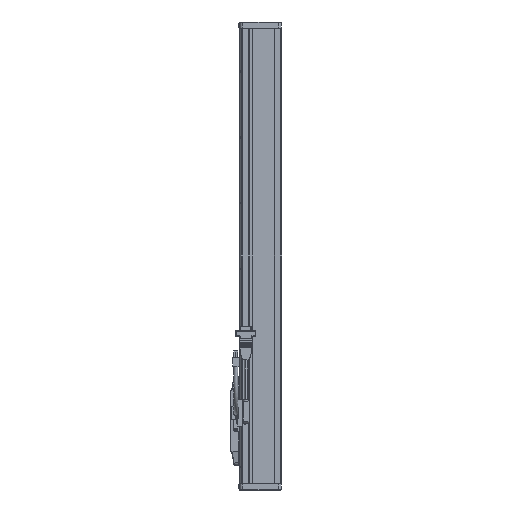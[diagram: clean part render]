
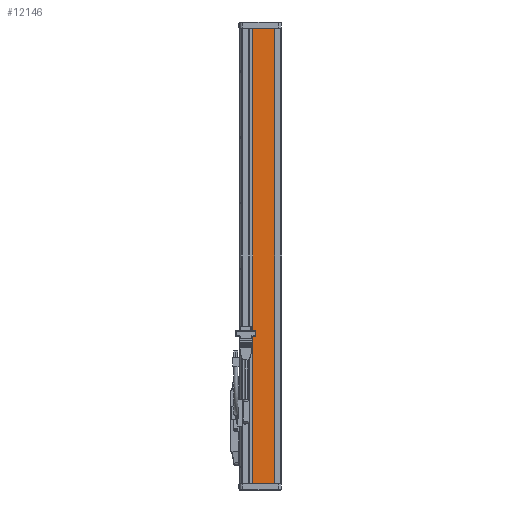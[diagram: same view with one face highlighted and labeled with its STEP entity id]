
A CAD part, left-side view. The second image highlights one B-rep face of the part: STEP entity #12146.
In plain terms, the highlighted planar face has unit normal (-1, 0, 0).
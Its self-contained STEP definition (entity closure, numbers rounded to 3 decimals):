
#144 = PLANE('',#145);
#145 = AXIS2_PLACEMENT_3D('',#146,#147,#148);
#146 = CARTESIAN_POINT('',(-36.5,59.6,690.));
#147 = DIRECTION('',(0.,0.,1.));
#148 = DIRECTION('',(1.,0.,-0.));
#1161 = PLANE('',#1162);
#1162 = AXIS2_PLACEMENT_3D('',#1163,#1164,#1165);
#1163 = CARTESIAN_POINT('',(-36.5,59.6,0.));
#1164 = DIRECTION('',(0.,0.,1.));
#1165 = DIRECTION('',(1.,0.,-0.));
#7481 = VERTEX_POINT('',#7482);
#7482 = CARTESIAN_POINT('',(-40.5,43.6,690.));
#7496 = PLANE('',#7497);
#7497 = AXIS2_PLACEMENT_3D('',#7498,#7499,#7500);
#7498 = CARTESIAN_POINT('',(-40.,43.6,690.));
#7499 = DIRECTION('',(0.,1.,0.));
#7500 = DIRECTION('',(0.,-0.,1.));
#7508 = EDGE_CURVE('',#7481,#7509,#7511,.T.);
#7509 = VERTEX_POINT('',#7510);
#7510 = CARTESIAN_POINT('',(-40.5,11.,690.));
#7511 = SURFACE_CURVE('',#7512,(#7516,#7523),.PCURVE_S1.);
#7512 = LINE('',#7513,#7514);
#7513 = CARTESIAN_POINT('',(-40.5,19.,690.));
#7514 = VECTOR('',#7515,1.);
#7515 = DIRECTION('',(0.,-1.,0.));
#7516 = PCURVE('',#144,#7517);
#7517 = DEFINITIONAL_REPRESENTATION('',(#7518),#7522);
#7518 = LINE('',#7519,#7520);
#7519 = CARTESIAN_POINT('',(-4.,-40.6));
#7520 = VECTOR('',#7521,1.);
#7521 = DIRECTION('',(0.,-1.));
#7522 = ( GEOMETRIC_REPRESENTATION_CONTEXT(2) 
PARAMETRIC_REPRESENTATION_CONTEXT() REPRESENTATION_CONTEXT('2D SPACE',''
  ) );
#7523 = PCURVE('',#7524,#7529);
#7524 = PLANE('',#7525);
#7525 = AXIS2_PLACEMENT_3D('',#7526,#7527,#7528);
#7526 = CARTESIAN_POINT('',(-40.5,19.,690.));
#7527 = DIRECTION('',(1.,0.,-0.));
#7528 = DIRECTION('',(-0.,0.,-1.));
#7529 = DEFINITIONAL_REPRESENTATION('',(#7530),#7534);
#7530 = LINE('',#7531,#7532);
#7531 = CARTESIAN_POINT('',(0.,0.));
#7532 = VECTOR('',#7533,1.);
#7533 = DIRECTION('',(-0.,-1.));
#7534 = ( GEOMETRIC_REPRESENTATION_CONTEXT(2) 
PARAMETRIC_REPRESENTATION_CONTEXT() REPRESENTATION_CONTEXT('2D SPACE',''
  ) );
#7552 = PLANE('',#7553);
#7553 = AXIS2_PLACEMENT_3D('',#7554,#7555,#7556);
#7554 = CARTESIAN_POINT('',(-41.,10.5,690.));
#7555 = DIRECTION('',(0.707,-0.707,0.));
#7556 = DIRECTION('',(0.707,0.707,0.));
#8898 = VERTEX_POINT('',#8899);
#8899 = CARTESIAN_POINT('',(-40.5,11.,0.));
#8920 = EDGE_CURVE('',#8921,#8898,#8923,.T.);
#8921 = VERTEX_POINT('',#8922);
#8922 = CARTESIAN_POINT('',(-40.5,43.6,0.));
#8923 = SURFACE_CURVE('',#8924,(#8928,#8935),.PCURVE_S1.);
#8924 = LINE('',#8925,#8926);
#8925 = CARTESIAN_POINT('',(-40.5,19.,0.));
#8926 = VECTOR('',#8927,1.);
#8927 = DIRECTION('',(0.,-1.,0.));
#8928 = PCURVE('',#1161,#8929);
#8929 = DEFINITIONAL_REPRESENTATION('',(#8930),#8934);
#8930 = LINE('',#8931,#8932);
#8931 = CARTESIAN_POINT('',(-4.,-40.6));
#8932 = VECTOR('',#8933,1.);
#8933 = DIRECTION('',(0.,-1.));
#8934 = ( GEOMETRIC_REPRESENTATION_CONTEXT(2) 
PARAMETRIC_REPRESENTATION_CONTEXT() REPRESENTATION_CONTEXT('2D SPACE',''
  ) );
#8935 = PCURVE('',#7524,#8936);
#8936 = DEFINITIONAL_REPRESENTATION('',(#8937),#8941);
#8937 = LINE('',#8938,#8939);
#8938 = CARTESIAN_POINT('',(690.,0.));
#8939 = VECTOR('',#8940,1.);
#8940 = DIRECTION('',(-0.,-1.));
#8941 = ( GEOMETRIC_REPRESENTATION_CONTEXT(2) 
PARAMETRIC_REPRESENTATION_CONTEXT() REPRESENTATION_CONTEXT('2D SPACE',''
  ) );
#10639 = EDGE_CURVE('',#7509,#8898,#10640,.T.);
#10640 = SURFACE_CURVE('',#10641,(#10645,#10652),.PCURVE_S1.);
#10641 = LINE('',#10642,#10643);
#10642 = CARTESIAN_POINT('',(-40.5,11.,690.));
#10643 = VECTOR('',#10644,1.);
#10644 = DIRECTION('',(-0.,-0.,-1.));
#10645 = PCURVE('',#7552,#10646);
#10646 = DEFINITIONAL_REPRESENTATION('',(#10647),#10651);
#10647 = LINE('',#10648,#10649);
#10648 = CARTESIAN_POINT('',(0.707,0.));
#10649 = VECTOR('',#10650,1.);
#10650 = DIRECTION('',(0.,-1.));
#10651 = ( GEOMETRIC_REPRESENTATION_CONTEXT(2) 
PARAMETRIC_REPRESENTATION_CONTEXT() REPRESENTATION_CONTEXT('2D SPACE',''
  ) );
#10652 = PCURVE('',#7524,#10653);
#10653 = DEFINITIONAL_REPRESENTATION('',(#10654),#10658);
#10654 = LINE('',#10655,#10656);
#10655 = CARTESIAN_POINT('',(-0.,-8.));
#10656 = VECTOR('',#10657,1.);
#10657 = DIRECTION('',(1.,-0.));
#10658 = ( GEOMETRIC_REPRESENTATION_CONTEXT(2) 
PARAMETRIC_REPRESENTATION_CONTEXT() REPRESENTATION_CONTEXT('2D SPACE',''
  ) );
#12146 = ADVANCED_FACE('',(#12147),#7524,.F.);
#12147 = FACE_BOUND('',#12148,.T.);
#12148 = EDGE_LOOP('',(#12149,#12150,#12151,#12152));
#12149 = ORIENTED_EDGE('',*,*,#8920,.T.);
#12150 = ORIENTED_EDGE('',*,*,#10639,.F.);
#12151 = ORIENTED_EDGE('',*,*,#7508,.F.);
#12152 = ORIENTED_EDGE('',*,*,#12153,.F.);
#12153 = EDGE_CURVE('',#8921,#7481,#12154,.T.);
#12154 = SURFACE_CURVE('',#12155,(#12159,#12166),.PCURVE_S1.);
#12155 = LINE('',#12156,#12157);
#12156 = CARTESIAN_POINT('',(-40.5,43.6,690.));
#12157 = VECTOR('',#12158,1.);
#12158 = DIRECTION('',(0.,0.,1.));
#12159 = PCURVE('',#7524,#12160);
#12160 = DEFINITIONAL_REPRESENTATION('',(#12161),#12165);
#12161 = LINE('',#12162,#12163);
#12162 = CARTESIAN_POINT('',(0.,24.6));
#12163 = VECTOR('',#12164,1.);
#12164 = DIRECTION('',(-1.,0.));
#12165 = ( GEOMETRIC_REPRESENTATION_CONTEXT(2) 
PARAMETRIC_REPRESENTATION_CONTEXT() REPRESENTATION_CONTEXT('2D SPACE',''
  ) );
#12166 = PCURVE('',#7496,#12167);
#12167 = DEFINITIONAL_REPRESENTATION('',(#12168),#12172);
#12168 = LINE('',#12169,#12170);
#12169 = CARTESIAN_POINT('',(0.,-0.5));
#12170 = VECTOR('',#12171,1.);
#12171 = DIRECTION('',(1.,0.));
#12172 = ( GEOMETRIC_REPRESENTATION_CONTEXT(2) 
PARAMETRIC_REPRESENTATION_CONTEXT() REPRESENTATION_CONTEXT('2D SPACE',''
  ) );
